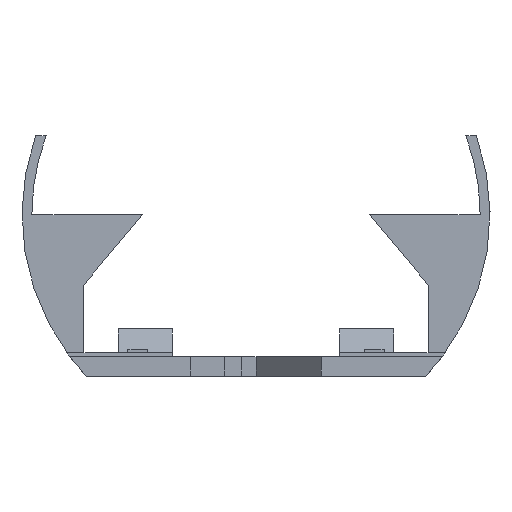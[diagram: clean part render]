
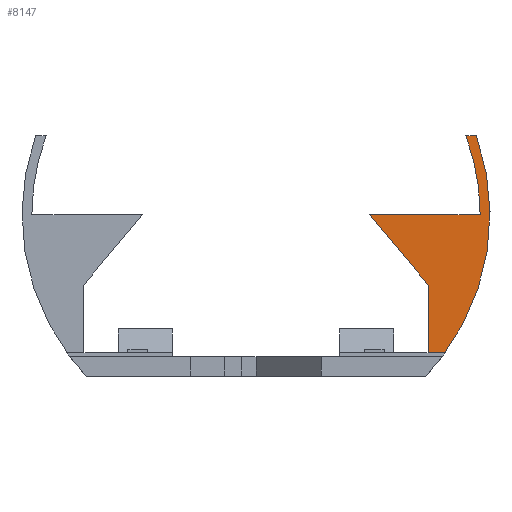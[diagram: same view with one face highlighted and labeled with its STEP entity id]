
A CAD part, left-side view. The second image highlights one B-rep face of the part: STEP entity #8147.
In plain terms, the highlighted planar face has unit normal (-1, 0, 0).
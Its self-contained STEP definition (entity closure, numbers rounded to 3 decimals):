
#32 = PLANE('',#33);
#33 = AXIS2_PLACEMENT_3D('',#34,#35,#36);
#34 = CARTESIAN_POINT('',(71.,-22.,-14.4));
#35 = DIRECTION('',(0.,0.,-1.));
#36 = DIRECTION('',(1.,0.,0.));
#43 = CYLINDRICAL_SURFACE('',#44,23.75);
#44 = AXIS2_PLACEMENT_3D('',#45,#46,#47);
#45 = CARTESIAN_POINT('',(66.,0.,0.));
#46 = DIRECTION('',(1.,0.,0.));
#47 = DIRECTION('',(-0.,0.,1.));
#650 = VERTEX_POINT('',#651);
#651 = CARTESIAN_POINT('',(86.,-17.5,-14.4));
#664 = PLANE('',#665);
#665 = AXIS2_PLACEMENT_3D('',#666,#667,#668);
#666 = CARTESIAN_POINT('',(86.,-17.5,-16.4));
#667 = DIRECTION('',(0.,-1.,0.));
#668 = DIRECTION('',(0.,0.,1.));
#675 = EDGE_CURVE('',#676,#650,#678,.T.);
#676 = VERTEX_POINT('',#677);
#677 = CARTESIAN_POINT('',(86.,-18.887,-14.4));
#678 = SURFACE_CURVE('',#679,(#683,#690),.PCURVE_S1.);
#679 = LINE('',#680,#681);
#680 = CARTESIAN_POINT('',(86.,-18.887,-14.4));
#681 = VECTOR('',#682,1.);
#682 = DIRECTION('',(0.,1.,0.));
#683 = PCURVE('',#32,#684);
#684 = DEFINITIONAL_REPRESENTATION('',(#685),#689);
#685 = LINE('',#686,#687);
#686 = CARTESIAN_POINT('',(15.,-3.113));
#687 = VECTOR('',#688,1.);
#688 = DIRECTION('',(0.,-1.));
#689 = ( GEOMETRIC_REPRESENTATION_CONTEXT(2) 
PARAMETRIC_REPRESENTATION_CONTEXT() REPRESENTATION_CONTEXT('2D SPACE',''
  ) );
#690 = PCURVE('',#691,#696);
#691 = PLANE('',#692);
#692 = AXIS2_PLACEMENT_3D('',#693,#694,#695);
#693 = CARTESIAN_POINT('',(86.,0.,0.));
#694 = DIRECTION('',(1.,0.,0.));
#695 = DIRECTION('',(-0.,0.,1.));
#696 = DEFINITIONAL_REPRESENTATION('',(#697),#701);
#697 = LINE('',#698,#699);
#698 = CARTESIAN_POINT('',(-14.4,18.887));
#699 = VECTOR('',#700,1.);
#700 = DIRECTION('',(0.,-1.));
#701 = ( GEOMETRIC_REPRESENTATION_CONTEXT(2) 
PARAMETRIC_REPRESENTATION_CONTEXT() REPRESENTATION_CONTEXT('2D SPACE',''
  ) );
#8147 = ADVANCED_FACE('',(#8148),#691,.F.);
#8148 = FACE_BOUND('',#8149,.F.);
#8149 = EDGE_LOOP('',(#8150,#8151,#8174,#8202,#8230,#8259,#8287));
#8150 = ORIENTED_EDGE('',*,*,#675,.T.);
#8151 = ORIENTED_EDGE('',*,*,#8152,.T.);
#8152 = EDGE_CURVE('',#650,#8153,#8155,.T.);
#8153 = VERTEX_POINT('',#8154);
#8154 = CARTESIAN_POINT('',(86.,-17.5,-7.151));
#8155 = SURFACE_CURVE('',#8156,(#8160,#8167),.PCURVE_S1.);
#8156 = LINE('',#8157,#8158);
#8157 = CARTESIAN_POINT('',(86.,-17.5,-16.4));
#8158 = VECTOR('',#8159,1.);
#8159 = DIRECTION('',(0.,0.,1.));
#8160 = PCURVE('',#691,#8161);
#8161 = DEFINITIONAL_REPRESENTATION('',(#8162),#8166);
#8162 = LINE('',#8163,#8164);
#8163 = CARTESIAN_POINT('',(-16.4,17.5));
#8164 = VECTOR('',#8165,1.);
#8165 = DIRECTION('',(1.,0.));
#8166 = ( GEOMETRIC_REPRESENTATION_CONTEXT(2) 
PARAMETRIC_REPRESENTATION_CONTEXT() REPRESENTATION_CONTEXT('2D SPACE',''
  ) );
#8167 = PCURVE('',#664,#8168);
#8168 = DEFINITIONAL_REPRESENTATION('',(#8169),#8173);
#8169 = LINE('',#8170,#8171);
#8170 = CARTESIAN_POINT('',(0.,0.));
#8171 = VECTOR('',#8172,1.);
#8172 = DIRECTION('',(1.,0.));
#8173 = ( GEOMETRIC_REPRESENTATION_CONTEXT(2) 
PARAMETRIC_REPRESENTATION_CONTEXT() REPRESENTATION_CONTEXT('2D SPACE',''
  ) );
#8174 = ORIENTED_EDGE('',*,*,#8175,.T.);
#8175 = EDGE_CURVE('',#8153,#8176,#8178,.T.);
#8176 = VERTEX_POINT('',#8177);
#8177 = CARTESIAN_POINT('',(86.,-11.5,0.));
#8178 = SURFACE_CURVE('',#8179,(#8183,#8190),.PCURVE_S1.);
#8179 = LINE('',#8180,#8181);
#8180 = CARTESIAN_POINT('',(86.,-17.5,-7.151));
#8181 = VECTOR('',#8182,1.);
#8182 = DIRECTION('',(0.,0.643,0.766));
#8183 = PCURVE('',#691,#8184);
#8184 = DEFINITIONAL_REPRESENTATION('',(#8185),#8189);
#8185 = LINE('',#8186,#8187);
#8186 = CARTESIAN_POINT('',(-7.151,17.5));
#8187 = VECTOR('',#8188,1.);
#8188 = DIRECTION('',(0.766,-0.643));
#8189 = ( GEOMETRIC_REPRESENTATION_CONTEXT(2) 
PARAMETRIC_REPRESENTATION_CONTEXT() REPRESENTATION_CONTEXT('2D SPACE',''
  ) );
#8190 = PCURVE('',#8191,#8196);
#8191 = PLANE('',#8192);
#8192 = AXIS2_PLACEMENT_3D('',#8193,#8194,#8195);
#8193 = CARTESIAN_POINT('',(86.,-17.5,-7.151));
#8194 = DIRECTION('',(0.,-0.766,0.643));
#8195 = DIRECTION('',(0.,0.643,0.766));
#8196 = DEFINITIONAL_REPRESENTATION('',(#8197),#8201);
#8197 = LINE('',#8198,#8199);
#8198 = CARTESIAN_POINT('',(0.,0.));
#8199 = VECTOR('',#8200,1.);
#8200 = DIRECTION('',(1.,0.));
#8201 = ( GEOMETRIC_REPRESENTATION_CONTEXT(2) 
PARAMETRIC_REPRESENTATION_CONTEXT() REPRESENTATION_CONTEXT('2D SPACE',''
  ) );
#8202 = ORIENTED_EDGE('',*,*,#8203,.T.);
#8203 = EDGE_CURVE('',#8176,#8204,#8206,.T.);
#8204 = VERTEX_POINT('',#8205);
#8205 = CARTESIAN_POINT('',(86.,-22.75,0.));
#8206 = SURFACE_CURVE('',#8207,(#8211,#8218),.PCURVE_S1.);
#8207 = LINE('',#8208,#8209);
#8208 = CARTESIAN_POINT('',(86.,-11.5,0.));
#8209 = VECTOR('',#8210,1.);
#8210 = DIRECTION('',(0.,-1.,0.));
#8211 = PCURVE('',#691,#8212);
#8212 = DEFINITIONAL_REPRESENTATION('',(#8213),#8217);
#8213 = LINE('',#8214,#8215);
#8214 = CARTESIAN_POINT('',(0.,11.5));
#8215 = VECTOR('',#8216,1.);
#8216 = DIRECTION('',(0.,1.));
#8217 = ( GEOMETRIC_REPRESENTATION_CONTEXT(2) 
PARAMETRIC_REPRESENTATION_CONTEXT() REPRESENTATION_CONTEXT('2D SPACE',''
  ) );
#8218 = PCURVE('',#8219,#8224);
#8219 = PLANE('',#8220);
#8220 = AXIS2_PLACEMENT_3D('',#8221,#8222,#8223);
#8221 = CARTESIAN_POINT('',(86.,-11.5,0.));
#8222 = DIRECTION('',(0.,0.,-1.));
#8223 = DIRECTION('',(0.,-1.,0.));
#8224 = DEFINITIONAL_REPRESENTATION('',(#8225),#8229);
#8225 = LINE('',#8226,#8227);
#8226 = CARTESIAN_POINT('',(0.,-0.));
#8227 = VECTOR('',#8228,1.);
#8228 = DIRECTION('',(1.,0.));
#8229 = ( GEOMETRIC_REPRESENTATION_CONTEXT(2) 
PARAMETRIC_REPRESENTATION_CONTEXT() REPRESENTATION_CONTEXT('2D SPACE',''
  ) );
#8230 = ORIENTED_EDGE('',*,*,#8231,.F.);
#8231 = EDGE_CURVE('',#8232,#8204,#8234,.T.);
#8232 = VERTEX_POINT('',#8233);
#8233 = CARTESIAN_POINT('',(86.,-21.297,8.));
#8234 = SURFACE_CURVE('',#8235,(#8240,#8247),.PCURVE_S1.);
#8235 = CIRCLE('',#8236,22.75);
#8236 = AXIS2_PLACEMENT_3D('',#8237,#8238,#8239);
#8237 = CARTESIAN_POINT('',(86.,0.,0.));
#8238 = DIRECTION('',(1.,0.,0.));
#8239 = DIRECTION('',(-0.,0.,1.));
#8240 = PCURVE('',#691,#8241);
#8241 = DEFINITIONAL_REPRESENTATION('',(#8242),#8246);
#8242 = CIRCLE('',#8243,22.75);
#8243 = AXIS2_PLACEMENT_2D('',#8244,#8245);
#8244 = CARTESIAN_POINT('',(0.,0.));
#8245 = DIRECTION('',(1.,0.));
#8246 = ( GEOMETRIC_REPRESENTATION_CONTEXT(2) 
PARAMETRIC_REPRESENTATION_CONTEXT() REPRESENTATION_CONTEXT('2D SPACE',''
  ) );
#8247 = PCURVE('',#8248,#8253);
#8248 = CYLINDRICAL_SURFACE('',#8249,22.75);
#8249 = AXIS2_PLACEMENT_3D('',#8250,#8251,#8252);
#8250 = CARTESIAN_POINT('',(85.,0.,0.));
#8251 = DIRECTION('',(1.,0.,0.));
#8252 = DIRECTION('',(-0.,0.,1.));
#8253 = DEFINITIONAL_REPRESENTATION('',(#8254),#8258);
#8254 = LINE('',#8255,#8256);
#8255 = CARTESIAN_POINT('',(0.,1.));
#8256 = VECTOR('',#8257,1.);
#8257 = DIRECTION('',(1.,0.));
#8258 = ( GEOMETRIC_REPRESENTATION_CONTEXT(2) 
PARAMETRIC_REPRESENTATION_CONTEXT() REPRESENTATION_CONTEXT('2D SPACE',''
  ) );
#8259 = ORIENTED_EDGE('',*,*,#8260,.F.);
#8260 = EDGE_CURVE('',#8261,#8232,#8263,.T.);
#8261 = VERTEX_POINT('',#8262);
#8262 = CARTESIAN_POINT('',(86.,-22.362,8.));
#8263 = SURFACE_CURVE('',#8264,(#8268,#8275),.PCURVE_S1.);
#8264 = LINE('',#8265,#8266);
#8265 = CARTESIAN_POINT('',(86.,-30.,8.));
#8266 = VECTOR('',#8267,1.);
#8267 = DIRECTION('',(-0.,1.,0.));
#8268 = PCURVE('',#691,#8269);
#8269 = DEFINITIONAL_REPRESENTATION('',(#8270),#8274);
#8270 = LINE('',#8271,#8272);
#8271 = CARTESIAN_POINT('',(8.,30.));
#8272 = VECTOR('',#8273,1.);
#8273 = DIRECTION('',(0.,-1.));
#8274 = ( GEOMETRIC_REPRESENTATION_CONTEXT(2) 
PARAMETRIC_REPRESENTATION_CONTEXT() REPRESENTATION_CONTEXT('2D SPACE',''
  ) );
#8275 = PCURVE('',#8276,#8281);
#8276 = PLANE('',#8277);
#8277 = AXIS2_PLACEMENT_3D('',#8278,#8279,#8280);
#8278 = CARTESIAN_POINT('',(86.,-30.,8.));
#8279 = DIRECTION('',(0.,0.,1.));
#8280 = DIRECTION('',(1.,0.,-0.));
#8281 = DEFINITIONAL_REPRESENTATION('',(#8282),#8286);
#8282 = LINE('',#8283,#8284);
#8283 = CARTESIAN_POINT('',(0.,0.));
#8284 = VECTOR('',#8285,1.);
#8285 = DIRECTION('',(0.,1.));
#8286 = ( GEOMETRIC_REPRESENTATION_CONTEXT(2) 
PARAMETRIC_REPRESENTATION_CONTEXT() REPRESENTATION_CONTEXT('2D SPACE',''
  ) );
#8287 = ORIENTED_EDGE('',*,*,#8288,.T.);
#8288 = EDGE_CURVE('',#8261,#676,#8289,.T.);
#8289 = SURFACE_CURVE('',#8290,(#8295,#8302),.PCURVE_S1.);
#8290 = CIRCLE('',#8291,23.75);
#8291 = AXIS2_PLACEMENT_3D('',#8292,#8293,#8294);
#8292 = CARTESIAN_POINT('',(86.,0.,0.));
#8293 = DIRECTION('',(1.,0.,0.));
#8294 = DIRECTION('',(0.,-0.942,0.337));
#8295 = PCURVE('',#691,#8296);
#8296 = DEFINITIONAL_REPRESENTATION('',(#8297),#8301);
#8297 = CIRCLE('',#8298,23.75);
#8298 = AXIS2_PLACEMENT_2D('',#8299,#8300);
#8299 = CARTESIAN_POINT('',(0.,0.));
#8300 = DIRECTION('',(0.337,0.942));
#8301 = ( GEOMETRIC_REPRESENTATION_CONTEXT(2) 
PARAMETRIC_REPRESENTATION_CONTEXT() REPRESENTATION_CONTEXT('2D SPACE',''
  ) );
#8302 = PCURVE('',#43,#8303);
#8303 = DEFINITIONAL_REPRESENTATION('',(#8304),#8308);
#8304 = LINE('',#8305,#8306);
#8305 = CARTESIAN_POINT('',(1.227,20.));
#8306 = VECTOR('',#8307,1.);
#8307 = DIRECTION('',(1.,0.));
#8308 = ( GEOMETRIC_REPRESENTATION_CONTEXT(2) 
PARAMETRIC_REPRESENTATION_CONTEXT() REPRESENTATION_CONTEXT('2D SPACE',''
  ) );
